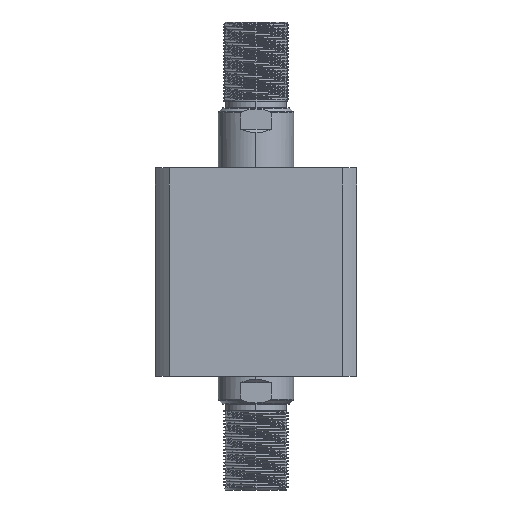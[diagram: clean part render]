
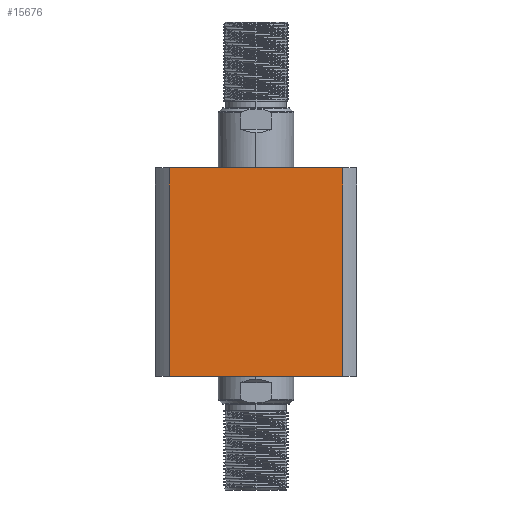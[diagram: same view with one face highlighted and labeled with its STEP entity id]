
A CAD part, left-side view. The second image highlights one B-rep face of the part: STEP entity #15676.
In plain terms, the highlighted planar face has unit normal (-1, 0, 0).
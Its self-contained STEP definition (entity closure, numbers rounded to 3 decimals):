
#1319 = CARTESIAN_POINT ( 'NONE',  ( -47., -40.435, 97. ) ) ;
#1701 = LINE ( 'NONE', #18144, #23641 ) ;
#3342 = EDGE_CURVE ( 'NONE', #15425, #27018, #1701, .T. ) ;
#3947 = DIRECTION ( 'NONE',  ( 1., 0., 0. ) ) ;
#4110 = CARTESIAN_POINT ( 'NONE',  ( -47., 40.435, 97. ) ) ;
#4348 = VERTEX_POINT ( 'NONE', #4110 ) ;
#4787 = ORIENTED_EDGE ( 'NONE', *, *, #22026, .F. ) ;
#4833 = VECTOR ( 'NONE', #21782, 1000. ) ;
#5058 = VERTEX_POINT ( 'NONE', #1319 ) ;
#7137 = LINE ( 'NONE', #7992, #22714 ) ;
#7992 = CARTESIAN_POINT ( 'NONE',  ( -47., -40.435, 300. ) ) ;
#9875 = EDGE_CURVE ( 'NONE', #5058, #27018, #7137, .T. ) ;
#10027 = DIRECTION ( 'NONE',  ( 0., 0., -1. ) ) ;
#10612 = CARTESIAN_POINT ( 'NONE',  ( -47., -40.435, 0. ) ) ;
#10812 = LINE ( 'NONE', #27539, #20755 ) ;
#13073 = ORIENTED_EDGE ( 'NONE', *, *, #9875, .F. ) ;
#14245 = AXIS2_PLACEMENT_3D ( 'NONE', #20839, #3947, #18792 ) ;
#14457 = ORIENTED_EDGE ( 'NONE', *, *, #3342, .T. ) ;
#14498 = DIRECTION ( 'NONE',  ( 0., -1., 0. ) ) ;
#14650 = DIRECTION ( 'NONE',  ( 0., -1., 0. ) ) ;
#15425 = VERTEX_POINT ( 'NONE', #26324 ) ;
#15676 = ADVANCED_FACE ( 'NONE', ( #24199 ), #16688, .F. ) ;
#15752 = EDGE_LOOP ( 'NONE', ( #13073, #16526, #4787, #14457 ) ) ;
#16142 = LINE ( 'NONE', #23942, #4833 ) ;
#16526 = ORIENTED_EDGE ( 'NONE', *, *, #21593, .F. ) ;
#16688 = PLANE ( 'NONE',  #14245 ) ;
#18144 = CARTESIAN_POINT ( 'NONE',  ( -47., 47., 0. ) ) ;
#18792 = DIRECTION ( 'NONE',  ( 0., 1., 0. ) ) ;
#20755 = VECTOR ( 'NONE', #14650, 1000. ) ;
#20839 = CARTESIAN_POINT ( 'NONE',  ( -47., 47., 97. ) ) ;
#21593 = EDGE_CURVE ( 'NONE', #4348, #5058, #10812, .T. ) ;
#21782 = DIRECTION ( 'NONE',  ( 0., 0., 1. ) ) ;
#22026 = EDGE_CURVE ( 'NONE', #15425, #4348, #16142, .T. ) ;
#22714 = VECTOR ( 'NONE', #10027, 1000. ) ;
#23641 = VECTOR ( 'NONE', #14498, 1000. ) ;
#23942 = CARTESIAN_POINT ( 'NONE',  ( -47., 40.435, 300. ) ) ;
#24199 = FACE_OUTER_BOUND ( 'NONE', #15752, .T. ) ;
#26324 = CARTESIAN_POINT ( 'NONE',  ( -47., 40.435, 0. ) ) ;
#27018 = VERTEX_POINT ( 'NONE', #10612 ) ;
#27539 = CARTESIAN_POINT ( 'NONE',  ( -47., 47., 97. ) ) ;
